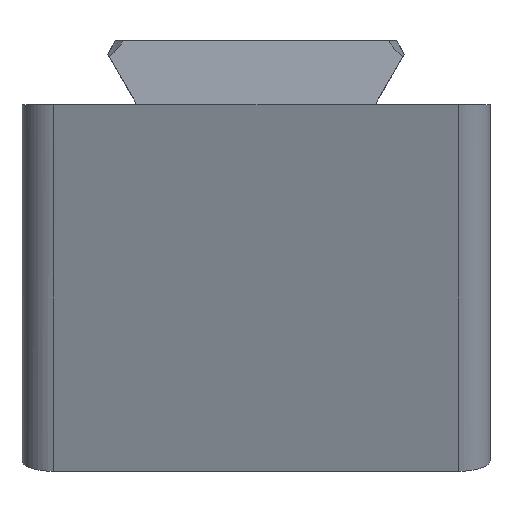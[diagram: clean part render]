
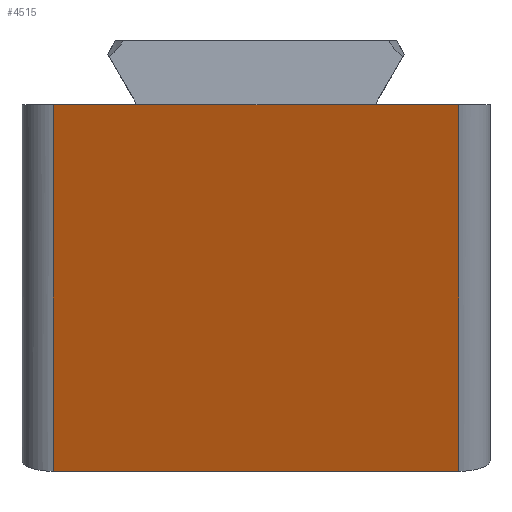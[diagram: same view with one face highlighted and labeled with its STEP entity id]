
A CAD part, left-side view. The second image highlights one B-rep face of the part: STEP entity #4515.
In plain terms, the highlighted planar face has unit normal (-0.94, 0, -0.342).
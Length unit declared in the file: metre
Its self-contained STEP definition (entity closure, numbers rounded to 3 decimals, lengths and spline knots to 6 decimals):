
#690=ORIENTED_EDGE('',*,*,#1864,.T.);
#691=ORIENTED_EDGE('',*,*,#2037,.T.);
#692=ORIENTED_EDGE('',*,*,#1796,.F.);
#693=ORIENTED_EDGE('',*,*,#2038,.T.);
#694=ORIENTED_EDGE('',*,*,#1876,.T.);
#695=ORIENTED_EDGE('',*,*,#2033,.T.);
#1796=EDGE_CURVE('',#2485,#2486,#2944,.T.);
#1864=EDGE_CURVE('',#2544,#2551,#2987,.T.);
#1876=EDGE_CURVE('',#2560,#2536,#2993,.T.);
#2033=EDGE_CURVE('',#2536,#2544,#3061,.T.);
#2037=EDGE_CURVE('',#2551,#2486,#3062,.T.);
#2038=EDGE_CURVE('',#2485,#2560,#3063,.F.);
#2485=VERTEX_POINT('',#6092);
#2486=VERTEX_POINT('',#6094);
#2536=VERTEX_POINT('',#6201);
#2544=VERTEX_POINT('',#6219);
#2551=VERTEX_POINT('',#6236);
#2560=VERTEX_POINT('',#6258);
#2944=LINE('',#6093,#3365);
#2987=LINE('',#6237,#3408);
#2993=LINE('',#6257,#3414);
#3061=LINE('',#6678,#3482);
#3062=LINE('',#6688,#3483);
#3063=LINE('',#6689,#3484);
#3365=VECTOR('',#5076,1.);
#3408=VECTOR('',#5189,1.);
#3414=VECTOR('',#5207,1.);
#3482=VECTOR('',#5355,1.);
#3483=VECTOR('',#5370,1.);
#3484=VECTOR('',#5371,1.);
#3825=EDGE_LOOP('',(#690,#691,#692,#693,#694,#695));
#4118=FACE_BOUND('',#3825,.T.);
#4384=PLANE('',#4855);
#4515=ADVANCED_FACE('',(#4118),#4384,.F.);
#4855=AXIS2_PLACEMENT_3D('',#6687,#5368,#5369);
#5076=DIRECTION('',(0.,1.,0.));
#5189=DIRECTION('',(0.,1.,0.));
#5207=DIRECTION('',(0.,1.,0.));
#5355=DIRECTION('',(0.,1.,0.));
#5368=DIRECTION('',(0.94,0.,0.342));
#5369=DIRECTION('',(0.342,0.,-0.94));
#5370=DIRECTION('',(0.342,0.,-0.94));
#5371=DIRECTION('',(0.342,0.,-0.94));
#6092=CARTESIAN_POINT('',(0.008557,-0.013,-0.02351));
#6093=CARTESIAN_POINT('',(0.008557,-0.015,-0.02351));
#6094=CARTESIAN_POINT('',(0.008557,0.013,-0.02351));
#6201=CARTESIAN_POINT('',(0.,-0.007695,0.));
#6219=CARTESIAN_POINT('',(0.,0.007695,0.));
#6236=CARTESIAN_POINT('',(0.,0.013,0.));
#6237=CARTESIAN_POINT('',(0.,-0.015,0.));
#6257=CARTESIAN_POINT('',(0.,-0.015,0.));
#6258=CARTESIAN_POINT('',(0.,-0.013,0.));
#6678=CARTESIAN_POINT('',(0.,0.,0.));
#6687=CARTESIAN_POINT('',(0.004278,-0.015,-0.011755));
#6688=CARTESIAN_POINT('',(0.004278,0.013,-0.011755));
#6689=CARTESIAN_POINT('',(0.,-0.013,0.));
